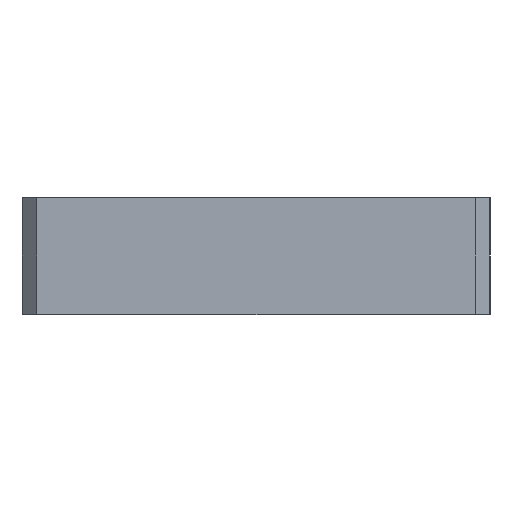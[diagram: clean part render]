
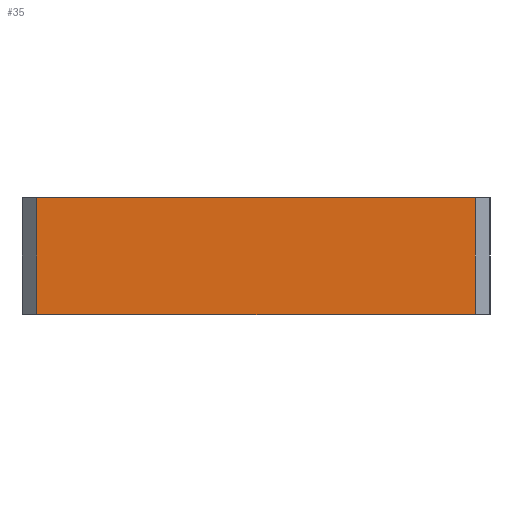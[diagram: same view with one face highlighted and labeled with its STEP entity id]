
A CAD part, left-side view. The second image highlights one B-rep face of the part: STEP entity #35.
In plain terms, the highlighted planar face has unit normal (-1, 0, 0).
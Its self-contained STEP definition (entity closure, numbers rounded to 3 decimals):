
#35 = ADVANCED_FACE('',(#36),#50,.F.);
#36 = FACE_BOUND('',#37,.F.);
#37 = EDGE_LOOP('',(#38,#73,#101,#129));
#38 = ORIENTED_EDGE('',*,*,#39,.F.);
#39 = EDGE_CURVE('',#40,#42,#44,.T.);
#40 = VERTEX_POINT('',#41);
#41 = CARTESIAN_POINT('',(-89.,-15.,8.));
#42 = VERTEX_POINT('',#43);
#43 = CARTESIAN_POINT('',(-89.,15.,8.));
#44 = SURFACE_CURVE('',#45,(#49,#61),.PCURVE_S1.);
#45 = LINE('',#46,#47);
#46 = CARTESIAN_POINT('',(-89.,-16.,8.));
#47 = VECTOR('',#48,1.);
#48 = DIRECTION('',(-0.,1.,0.));
#49 = PCURVE('',#50,#55);
#50 = PLANE('',#51);
#51 = AXIS2_PLACEMENT_3D('',#52,#53,#54);
#52 = CARTESIAN_POINT('',(-89.,-16.,0.));
#53 = DIRECTION('',(1.,0.,-0.));
#54 = DIRECTION('',(0.,0.,1.));
#55 = DEFINITIONAL_REPRESENTATION('',(#56),#60);
#56 = LINE('',#57,#58);
#57 = CARTESIAN_POINT('',(8.,0.));
#58 = VECTOR('',#59,1.);
#59 = DIRECTION('',(0.,-1.));
#60 = ( GEOMETRIC_REPRESENTATION_CONTEXT(2) 
PARAMETRIC_REPRESENTATION_CONTEXT() REPRESENTATION_CONTEXT('2D SPACE',''
  ) );
#61 = PCURVE('',#62,#67);
#62 = PLANE('',#63);
#63 = AXIS2_PLACEMENT_3D('',#64,#65,#66);
#64 = CARTESIAN_POINT('',(-89.,-16.,8.));
#65 = DIRECTION('',(0.,0.,1.));
#66 = DIRECTION('',(1.,0.,-0.));
#67 = DEFINITIONAL_REPRESENTATION('',(#68),#72);
#68 = LINE('',#69,#70);
#69 = CARTESIAN_POINT('',(0.,0.));
#70 = VECTOR('',#71,1.);
#71 = DIRECTION('',(0.,1.));
#72 = ( GEOMETRIC_REPRESENTATION_CONTEXT(2) 
PARAMETRIC_REPRESENTATION_CONTEXT() REPRESENTATION_CONTEXT('2D SPACE',''
  ) );
#73 = ORIENTED_EDGE('',*,*,#74,.F.);
#74 = EDGE_CURVE('',#75,#40,#77,.T.);
#75 = VERTEX_POINT('',#76);
#76 = CARTESIAN_POINT('',(-89.,-15.,0.));
#77 = SURFACE_CURVE('',#78,(#82,#89),.PCURVE_S1.);
#78 = LINE('',#79,#80);
#79 = CARTESIAN_POINT('',(-89.,-15.,0.));
#80 = VECTOR('',#81,1.);
#81 = DIRECTION('',(0.,0.,1.));
#82 = PCURVE('',#50,#83);
#83 = DEFINITIONAL_REPRESENTATION('',(#84),#88);
#84 = LINE('',#85,#86);
#85 = CARTESIAN_POINT('',(0.,-1.));
#86 = VECTOR('',#87,1.);
#87 = DIRECTION('',(1.,0.));
#88 = ( GEOMETRIC_REPRESENTATION_CONTEXT(2) 
PARAMETRIC_REPRESENTATION_CONTEXT() REPRESENTATION_CONTEXT('2D SPACE',''
  ) );
#89 = PCURVE('',#90,#95);
#90 = PLANE('',#91);
#91 = AXIS2_PLACEMENT_3D('',#92,#93,#94);
#92 = CARTESIAN_POINT('',(-88.5,-15.5,0.));
#93 = DIRECTION('',(-0.707,-0.707,0.));
#94 = DIRECTION('',(-0.,-0.,-1.));
#95 = DEFINITIONAL_REPRESENTATION('',(#96),#100);
#96 = LINE('',#97,#98);
#97 = CARTESIAN_POINT('',(-0.,-0.707));
#98 = VECTOR('',#99,1.);
#99 = DIRECTION('',(-1.,0.));
#100 = ( GEOMETRIC_REPRESENTATION_CONTEXT(2) 
PARAMETRIC_REPRESENTATION_CONTEXT() REPRESENTATION_CONTEXT('2D SPACE',''
  ) );
#101 = ORIENTED_EDGE('',*,*,#102,.T.);
#102 = EDGE_CURVE('',#75,#103,#105,.T.);
#103 = VERTEX_POINT('',#104);
#104 = CARTESIAN_POINT('',(-89.,15.,0.));
#105 = SURFACE_CURVE('',#106,(#110,#117),.PCURVE_S1.);
#106 = LINE('',#107,#108);
#107 = CARTESIAN_POINT('',(-89.,-16.,0.));
#108 = VECTOR('',#109,1.);
#109 = DIRECTION('',(-0.,1.,0.));
#110 = PCURVE('',#50,#111);
#111 = DEFINITIONAL_REPRESENTATION('',(#112),#116);
#112 = LINE('',#113,#114);
#113 = CARTESIAN_POINT('',(0.,0.));
#114 = VECTOR('',#115,1.);
#115 = DIRECTION('',(0.,-1.));
#116 = ( GEOMETRIC_REPRESENTATION_CONTEXT(2) 
PARAMETRIC_REPRESENTATION_CONTEXT() REPRESENTATION_CONTEXT('2D SPACE',''
  ) );
#117 = PCURVE('',#118,#123);
#118 = PLANE('',#119);
#119 = AXIS2_PLACEMENT_3D('',#120,#121,#122);
#120 = CARTESIAN_POINT('',(-89.,-16.,0.));
#121 = DIRECTION('',(0.,0.,1.));
#122 = DIRECTION('',(1.,0.,-0.));
#123 = DEFINITIONAL_REPRESENTATION('',(#124),#128);
#124 = LINE('',#125,#126);
#125 = CARTESIAN_POINT('',(0.,0.));
#126 = VECTOR('',#127,1.);
#127 = DIRECTION('',(0.,1.));
#128 = ( GEOMETRIC_REPRESENTATION_CONTEXT(2) 
PARAMETRIC_REPRESENTATION_CONTEXT() REPRESENTATION_CONTEXT('2D SPACE',''
  ) );
#129 = ORIENTED_EDGE('',*,*,#130,.T.);
#130 = EDGE_CURVE('',#103,#42,#131,.T.);
#131 = SURFACE_CURVE('',#132,(#136,#143),.PCURVE_S1.);
#132 = LINE('',#133,#134);
#133 = CARTESIAN_POINT('',(-89.,15.,0.));
#134 = VECTOR('',#135,1.);
#135 = DIRECTION('',(0.,0.,1.));
#136 = PCURVE('',#50,#137);
#137 = DEFINITIONAL_REPRESENTATION('',(#138),#142);
#138 = LINE('',#139,#140);
#139 = CARTESIAN_POINT('',(0.,-31.));
#140 = VECTOR('',#141,1.);
#141 = DIRECTION('',(1.,0.));
#142 = ( GEOMETRIC_REPRESENTATION_CONTEXT(2) 
PARAMETRIC_REPRESENTATION_CONTEXT() REPRESENTATION_CONTEXT('2D SPACE',''
  ) );
#143 = PCURVE('',#144,#149);
#144 = PLANE('',#145);
#145 = AXIS2_PLACEMENT_3D('',#146,#147,#148);
#146 = CARTESIAN_POINT('',(-88.5,15.5,0.));
#147 = DIRECTION('',(0.707,-0.707,0.));
#148 = DIRECTION('',(-0.,-0.,-1.));
#149 = DEFINITIONAL_REPRESENTATION('',(#150),#154);
#150 = LINE('',#151,#152);
#151 = CARTESIAN_POINT('',(-0.,-0.707));
#152 = VECTOR('',#153,1.);
#153 = DIRECTION('',(-1.,0.));
#154 = ( GEOMETRIC_REPRESENTATION_CONTEXT(2) 
PARAMETRIC_REPRESENTATION_CONTEXT() REPRESENTATION_CONTEXT('2D SPACE',''
  ) );
